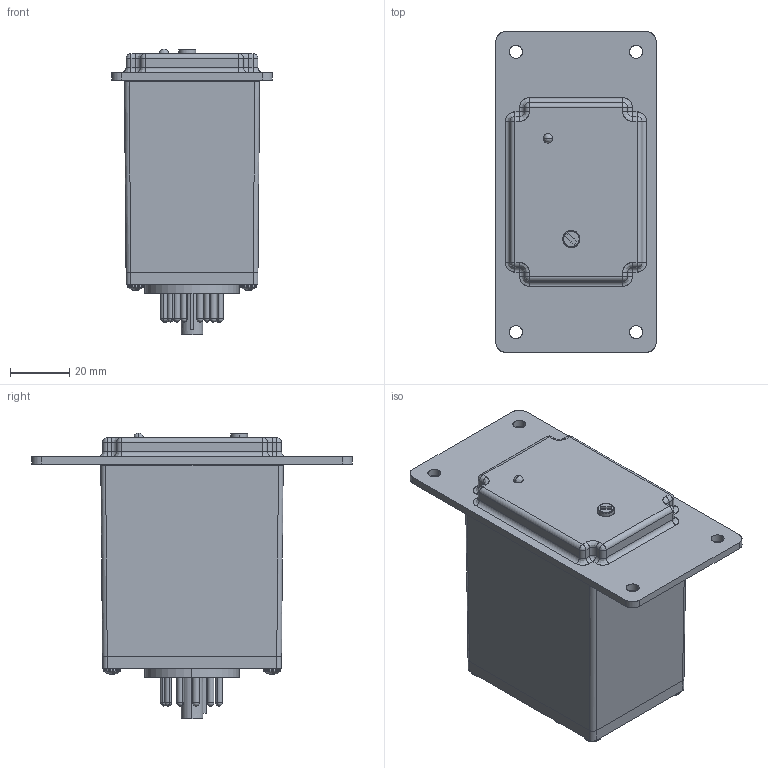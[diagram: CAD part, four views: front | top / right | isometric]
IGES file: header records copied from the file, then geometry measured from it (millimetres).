
Start section: SolidWorks IGES file using analytic representation for surfaces
Global section: file name: D:\Modeling Work\Macromatic\2019\Phase 2\SFF\SFF Single.IGS; native system: SolidWorks 2019; preprocessor: SolidWorks 2019; author: mdahl; date: 190702.204845; units: millimetre
Bounding box: 53.98 x 107.95 x 96.33 mm (x, y, z)
Surface area: 35735.9 mm2 (no closed solid volume)
Topology: 0 solids, 0 shells, 806 faces, 10545 edges, 10477 vertices
Faces by surface type: bspline 428, revolution 378
